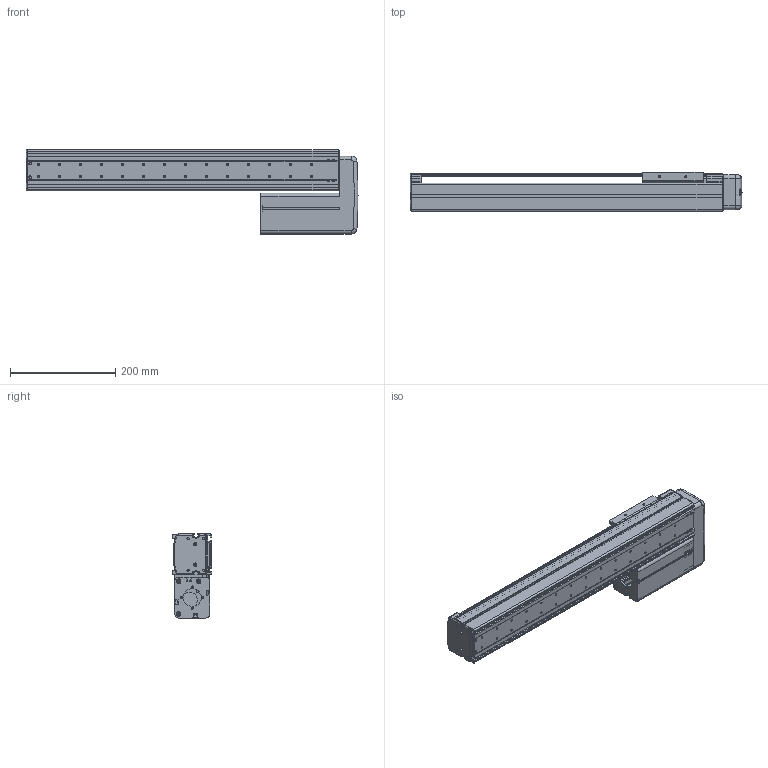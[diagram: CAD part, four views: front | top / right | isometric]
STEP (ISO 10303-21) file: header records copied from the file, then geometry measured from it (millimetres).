
FILE_DESCRIPTION((''),'2;1');
FILE_NAME('BE10E-UL-M_N-40_IGS_PRT','2017-06-17T',(' '),(''),'PRO/ENGINEER BY PARAMETRIC TECHNOLOGY CORPORATION, 2015030','PRO/ENGINEER BY PARAMETRIC TECHNOLOGY CORPORATION, 2015030','');
FILE_SCHEMA(('CONFIG_CONTROL_DESIGN'));
Length unit declared in the file: millimetre
Products named in the file (1): BE10E-UL-M_N-40_IGS_PRT
Bounding box: 632 x 75 x 160 mm (x, y, z)
Volume: 1040693.4 mm3; surface area: 714661.7 mm2
Topology: 2 solids, 103 shells, 1753 faces, 4724 edges, 3063 vertices
Faces by surface type: cylinder 825, plane 700, cone 81, torus 71, sphere 44, bspline 32
Entity records: 57213 total; most frequent: CARTESIAN_POINT 12080, DIRECTION 9798, ORIENTED_EDGE 8990, EDGE_CURVE 4690, AXIS2_PLACEMENT_3D 3648, VERTEX_POINT 3063, VECTOR 2502, LINE 2502
